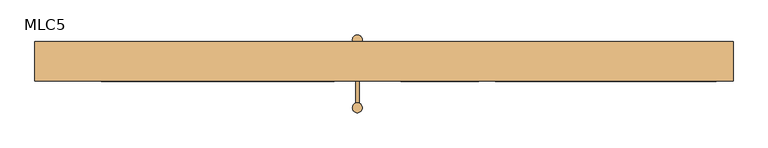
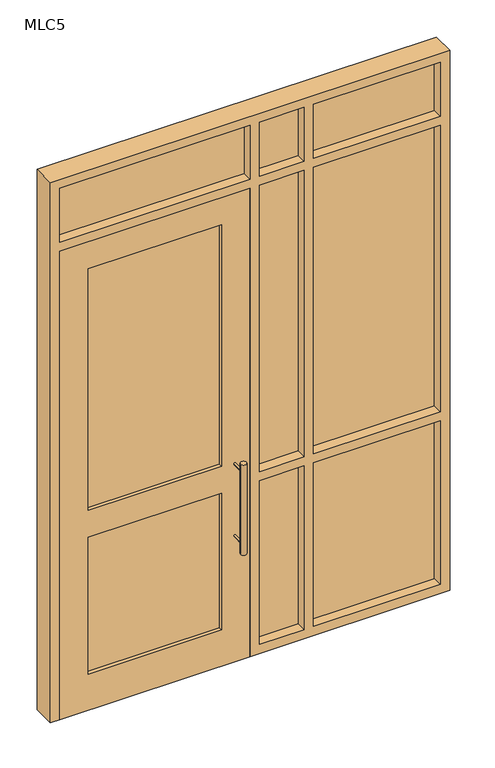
"""IFC4 building model written with IfcOpenShell, lengths in millimetres: door geometry, 单嵌板连窗玻璃门 1 : MLC5."""

from ifc_helpers import new_model, si_unit, point, frame, frame_2d, origin, place, context, project, spatial, polyline, circle_curve, trimmed, segment, composite_curve, outline, extrude, source, transform, mapped, element, save


def mlc5_f6d9b1df(model_context):
    return source(origin(), model_context, "Body", "SweptSolid", [
        extrude(outline(composite_curve([segment(trimmed(circle_curve(frame_2d((-80.0, -130.0)), 15.0), [point((-95.0, -130.0))], [point((-65.0, -130.0))], False, "CARTESIAN"), True, "CONTINUOUS"), segment(trimmed(circle_curve(frame_2d((-80.0, -130.0)), 15.0), [point((-65.0, -130.0))], [point((-95.0, -130.0))], False, "CARTESIAN"), True, "CONTINUOUS")], self_intersect=False)), frame((0.0, 0.0, 650.0), z_axis=(0.0, 0.0, 1.0), x_axis=(1.0, 0.0, 0.0)), (0.0, 0.0, 1.0), 500.0),
        extrude(outline(composite_curve([segment(trimmed(circle_curve(frame_2d((1100.0, -80.0)), 5.0), [point((1100.0, -85.0))], [point((1100.0, -75.0))], False, "CARTESIAN"), True, "CONTINUOUS"), segment(trimmed(circle_curve(frame_2d((1100.0, -80.0)), 5.0), [point((1100.0, -75.0))], [point((1100.0, -85.0))], False, "CARTESIAN"), True, "CONTINUOUS")], self_intersect=False)), frame((0.0, -130.0, 0.0), z_axis=(0.0, 1.0, 0.0), x_axis=(0.0, 0.0, 1.0)), (0.0, 0.0, 1.0), 80.0),
        extrude(outline(composite_curve([segment(trimmed(circle_curve(frame_2d((700.0, -80.0)), 5.0), [point((700.0, -85.0))], [point((700.0, -75.0))], False, "CARTESIAN"), True, "CONTINUOUS"), segment(trimmed(circle_curve(frame_2d((700.0, -80.0)), 5.0), [point((700.0, -75.0))], [point((700.0, -85.0))], False, "CARTESIAN"), True, "CONTINUOUS")], self_intersect=False)), frame((0.0, -130.0, 0.0), z_axis=(0.0, 1.0, 0.0), x_axis=(0.0, 0.0, 1.0)), (0.0, 0.0, 1.0), 80.0),
        extrude(outline(composite_curve([segment(trimmed(circle_curve(frame_2d((1100.0, -80.0)), 5.0), [point((1100.0, -85.0))], [point((1100.0, -75.0))], False, "CARTESIAN"), True, "CONTINUOUS"), segment(trimmed(circle_curve(frame_2d((1100.0, -80.0)), 5.0), [point((1100.0, -75.0))], [point((1100.0, -85.0))], False, "CARTESIAN"), True, "CONTINUOUS")], self_intersect=False)), frame((0.0, -5.0, 0.0), z_axis=(0.0, 1.0, 0.0), x_axis=(0.0, 0.0, 1.0)), (0.0, 0.0, 1.0), 80.0),
        extrude(outline(composite_curve([segment(trimmed(circle_curve(frame_2d((700.0, -80.0)), 5.0), [point((700.0, -85.0))], [point((700.0, -75.0))], False, "CARTESIAN"), True, "CONTINUOUS"), segment(trimmed(circle_curve(frame_2d((700.0, -80.0)), 5.0), [point((700.0, -75.0))], [point((700.0, -85.0))], False, "CARTESIAN"), True, "CONTINUOUS")], self_intersect=False)), frame((0.0, -5.0, 0.0), z_axis=(0.0, 1.0, 0.0), x_axis=(0.0, 0.0, 1.0)), (0.0, 0.0, 1.0), 80.0),
        extrude(outline(composite_curve([segment(trimmed(circle_curve(frame_2d((-80.0, 75.0)), 15.0), [point((-95.0, 75.0))], [point((-65.0, 75.0))], False, "CARTESIAN"), True, "CONTINUOUS"), segment(trimmed(circle_curve(frame_2d((-80.0, 75.0)), 15.0), [point((-65.0, 75.0))], [point((-95.0, 75.0))], False, "CARTESIAN"), True, "CONTINUOUS")], self_intersect=False)), frame((0.0, 0.0, 650.0), z_axis=(0.0, 0.0, 1.0), x_axis=(1.0, 0.0, 0.0)), (0.0, 0.0, 1.0), 500.0),
        extrude(outline(polyline([(-150.0, -24.325), (-150.0, -30.675), (-850.0, -30.675), (-850.0, -24.325), (-150.0, -24.325)])), frame((0.0, 0.0, 200.0), z_axis=(0.0, 0.0, 1.0), x_axis=(1.0, 0.0, 0.0)), (0.0, 0.0, 1.0), 760.0),
        extrude(outline(polyline([(-150.0, -24.325), (-150.0, -30.675), (-850.0, -30.675), (-850.0, -24.325), (-150.0, -24.325)])), frame((0.0, 0.0, 1110.0), z_axis=(0.0, 0.0, 1.0), x_axis=(1.0, 0.0, 0.0)), (0.0, 0.0, 1.0), 1340.0),
        extrude(outline(polyline([(2600.0, -1000.0), (0.0, -1000.0), (0.0, 0.0), (2600.0, 0.0), (2600.0, -1000.0)]), holes=[polyline([(2450.0, -850.0), (2450.0, -150.0), (1110.0, -150.0), (1110.0, -850.0), (2450.0, -850.0)]), polyline([(960.0, -150.0), (200.0, -150.0), (200.0, -850.0), (960.0, -850.0), (960.0, -150.0)])]), frame((0.0, -50.0, 0.0), z_axis=(0.0, 1.0, 0.0), x_axis=(0.0, 0.0, 1.0)), (0.0, 0.0, 1.0), 45.0),
        extrude(outline(polyline([(1000.0, 16.4), (1000.0, 3.6), (334.8, 3.6), (334.8, 16.4), (1000.0, 16.4)])), frame((0.0, 0.0, 1010.0), z_axis=(0.0, 0.0, 1.0), x_axis=(1.0, 0.0, 0.0)), (0.0, 0.0, 1.0), 1590.0),
        extrude(outline(polyline([(1000.0, 16.4), (1000.0, 3.6), (334.8, 3.6), (334.8, 16.4), (1000.0, 16.4)])), frame((0.0, 0.0, 50.0), z_axis=(0.0, 0.0, 1.0), x_axis=(1.0, 0.0, 0.0)), (0.0, 0.0, 1.0), 910.0),
        extrude(outline(polyline([(284.8, 16.4), (284.8, 3.6), (50.0, 3.6), (50.0, 16.4), (284.8, 16.4)])), frame((0.0, 0.0, 50.0), z_axis=(0.0, 0.0, 1.0), x_axis=(1.0, 0.0, 0.0)), (0.0, 0.0, 1.0), 910.0),
        extrude(outline(polyline([(284.8, 16.4), (284.8, 3.6), (50.0, 3.6), (50.0, 16.4), (284.8, 16.4)])), frame((0.0, 0.0, 1010.0), z_axis=(0.0, 0.0, 1.0), x_axis=(1.0, 0.0, 0.0)), (0.0, 0.0, 1.0), 1590.0),
        extrude(outline(polyline([(284.8, 16.4), (284.8, 3.6), (50.0, 3.6), (50.0, 16.4), (284.8, 16.4)])), frame((0.0, 0.0, 2650.0), z_axis=(0.0, 0.0, 1.0), x_axis=(1.0, 0.0, 0.0)), (0.0, 0.0, 1.0), 300.0),
        extrude(outline(polyline([(1000.0, 16.4), (1000.0, 3.6), (334.8, 3.6), (334.8, 16.4), (1000.0, 16.4)])), frame((0.0, 0.0, 2650.0), z_axis=(0.0, 0.0, 1.0), x_axis=(1.0, 0.0, 0.0)), (0.0, 0.0, 1.0), 300.0),
        extrude(outline(polyline([(0.0, 16.4), (0.0, 3.6), (-1000.0, 3.6), (-1000.0, 16.4), (0.0, 16.4)])), frame((0.0, 0.0, 2650.0), z_axis=(0.0, 0.0, 1.0), x_axis=(1.0, 0.0, 0.0)), (0.0, 0.0, 1.0), 300.0),
        extrude(outline(polyline([(0.0, 1050.0), (3000.0, 1050.0), (3000.0, -1050.0), (0.0, -1050.0), (0.0, -1000.0), (2600.0, -1000.0), (2600.0, 0.0), (0.0, 0.0), (0.0, 1050.0)]), holes=[polyline([(960.0, 1000.0), (50.0, 1000.0), (50.0, 334.8), (960.0, 334.8), (960.0, 1000.0)]), polyline([(2600.0, 334.8), (2600.0, 1000.0), (1010.0, 1000.0), (1010.0, 334.8), (2600.0, 334.8)]), polyline([(50.0, 284.8), (50.0, 50.0), (960.0, 50.0), (960.0, 284.8), (50.0, 284.8)]), polyline([(2650.0, 334.8), (2950.0, 334.8), (2950.0, 1000.0), (2650.0, 1000.0), (2650.0, 334.8)]), polyline([(2950.0, 284.8), (2650.0, 284.8), (2650.0, 50.0), (2950.0, 50.0), (2950.0, 284.8)]), polyline([(2650.0, -1000.0), (2950.0, -1000.0), (2950.0, 0.0), (2650.0, 0.0), (2650.0, -1000.0)]), polyline([(2600.0, 50.0), (2600.0, 284.8), (1010.0, 284.8), (1010.0, 50.0), (2600.0, 50.0)])]), frame((0.0, -50.0, 0.0), z_axis=(0.0, 1.0, 0.0), x_axis=(0.0, 0.0, 1.0)), (0.0, 0.0, 1.0), 120.0),
    ])


if __name__ == "__main__":
    model = new_model("IFC4")
    model_context = context("Model", 3, world=origin())
    ifc_project = project(units=[si_unit("LENGTHUNIT", "METRE", prefix="MILLI")], contexts=[model_context])
    site = spatial("IfcSite", under=ifc_project)
    building = spatial("IfcBuilding", under=site)
    placement = place(None, origin())
    mlc5_shape = mlc5_f6d9b1df(model_context)
    element("IfcDoor", 1, ObjectType="单嵌板连窗玻璃门 1 : MLC5", at=placement, inside=building, context=model_context, shape_type="MappedRepresentation", body=[
        mapped(mlc5_shape, transform((0.0, 0.0, 0.0), x_axis=(1.0, 0.0, 0.0), y_axis=(0.0, 1.0, 0.0), z_axis=(0.0, 0.0, 1.0))),
    ])
    save(model, "model.ifc")
